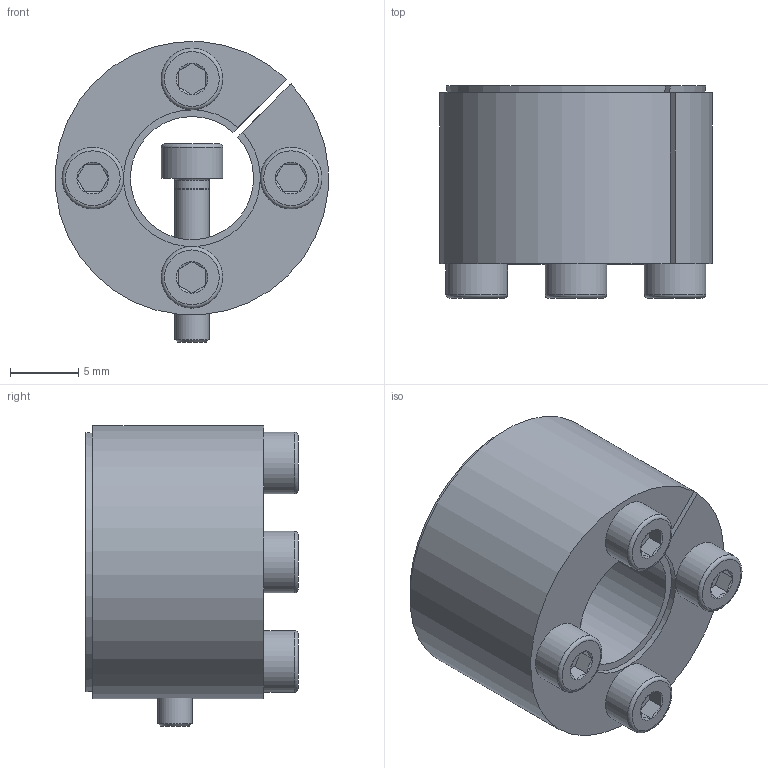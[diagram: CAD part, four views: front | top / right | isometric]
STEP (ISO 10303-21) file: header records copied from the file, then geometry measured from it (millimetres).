
FILE_DESCRIPTION( ( 'Unknown' ), '1' );
FILE_NAME( 'C:/Dokumente und Einstellungen/Sven/Desktop/homepage/cad - homepage/KBS61/KBS 61 - 9 x 20.stp', 'Unknown', ( 'Unknown' ), ( 'Unknown' ), 'XStep 1.0', 'Unknown', ' ' );
FILE_SCHEMA( ( 'automotive_design' ) );
Length unit declared in the file: millimetre
Products named in the file (6): Assem1; KBS 61 - 9 x 20; ISO EN DIN 4762 M2,5x12; ISO EN DIN 4762 M2,5x12-oa0; ISO EN DIN 4762 M2,5x12-oa1; ISO EN DIN 4762 M2,5x12-oa2
Bounding box: 19.94 x 15.5 x 21.98 mm (x, y, z)
Volume: 6636.5 mm3; surface area: 5723.8 mm2
Topology: 10 solids, 10 shells, 228 faces, 424 edges, 248 vertices
Faces by surface type: plane 108, cone 60, cylinder 44, torus 16
Full cylindrical faces by diameter (mm): 2.1 x8, 2.5 x24, 4.5 x8
Entity records: 2963 total; most frequent: CARTESIAN_POINT 556, DIRECTION 468, ORIENTED_EDGE 344, AXIS2_PLACEMENT_3D 204, EDGE_CURVE 172, EDGE_LOOP 170, FACE_OUTER_BOUND 142, VERTEX_POINT 116
